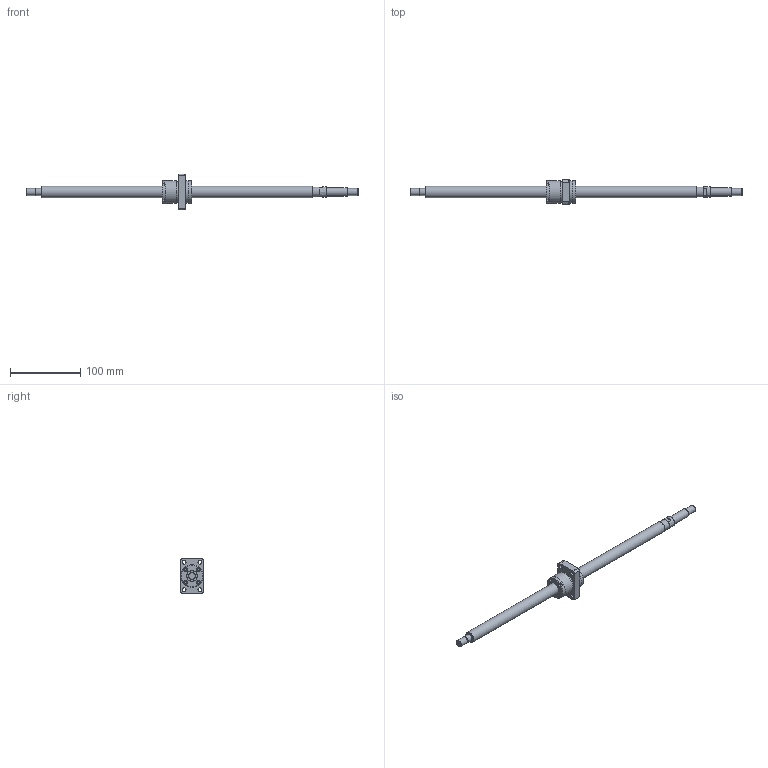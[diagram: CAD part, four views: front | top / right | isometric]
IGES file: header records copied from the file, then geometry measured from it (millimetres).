
Start section: Data from Parasolid IGES Translator 26.0.171, Copyright(c) 2006 Siemens PLM Software. All Rights Reserved.
Global section: file name: BNK1616-3.6G0+471LC5Y(2130).igs; native system: By Siemens PLM Incorporated; preprocessor: XPlus GENERIC/IGES 26.0.171; author: Noname; organization: Noname; date: 20240709.092924; units: millimetre
Bounding box: 471 x 34 x 50 mm (x, y, z)
Surface area: 34290.6 mm2 (no closed solid volume)
Topology: 0 solids, 0 shells, 139 faces, 653 edges, 597 vertices
Faces by surface type: extrusion 75, revolution 64
